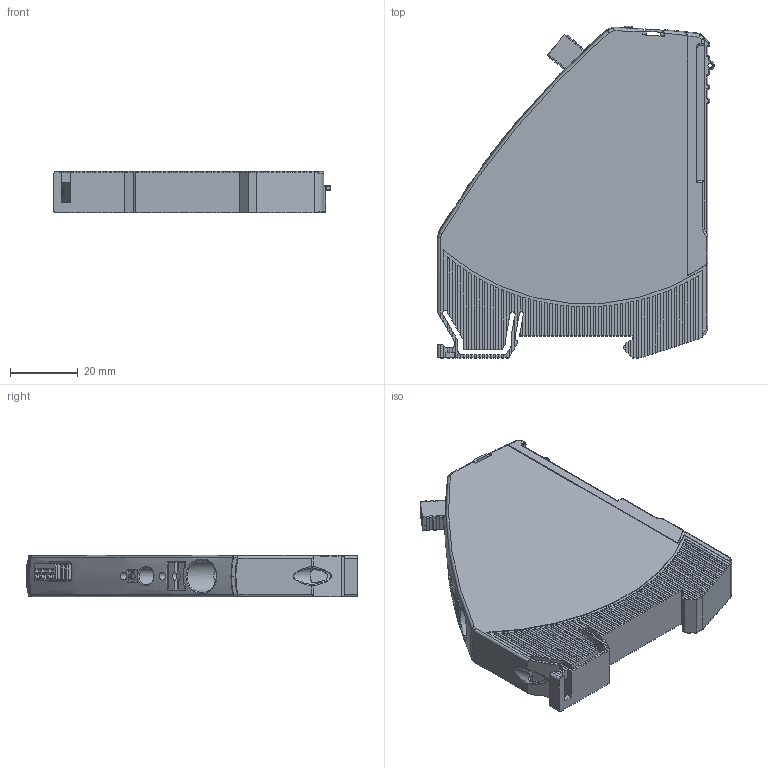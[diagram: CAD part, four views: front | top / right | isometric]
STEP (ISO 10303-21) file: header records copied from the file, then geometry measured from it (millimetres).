
FILE_DESCRIPTION((''),'2;1');
FILE_NAME('T-EM12D-TIO-XXX_ASM','2016-04-22T',('hroth'),(''),'PRO/ENGINEER BY PARAMETRIC TECHNOLOGY CORPORATION, 2014200','PRO/ENGINEER BY PARAMETRIC TECHNOLOGY CORPORATION, 2014200','');
FILE_SCHEMA(('AUTOMOTIVE_DESIGN { 1 0 10303 214 1 1 1 1 }'));
Products named in the file (3): T-EM12D-TIO-XXX_GEH; Y31193101; T-EM12D-TIO-XXX_ASM
Assembly tree (2 placements, depth 2):
  T-EM12D-TIO-XXX_ASM
    T-EM12D-TIO-XXX_GEH
    Y31193101
Bounding box: 81.9 x 98.28 x 12.4 mm (x, y, z)
Volume: 71437.7 mm3; surface area: 20903.8 mm2
Topology: 2 solids, 2 shells, 1660 faces, 4598 edges, 2998 vertices
Faces by surface type: plane 1138, cylinder 335, bspline 64, extrusion 41, cone 36, torus 33, sphere 13
Entity records: 65113 total; most frequent: CARTESIAN_POINT 16311, ORIENTED_EDGE 9196, DIRECTION 8196, EDGE_CURVE 4598, VECTOR 3544, LINE 3503, VERTEX_POINT 2998, AXIS2_PLACEMENT_3D 2326
